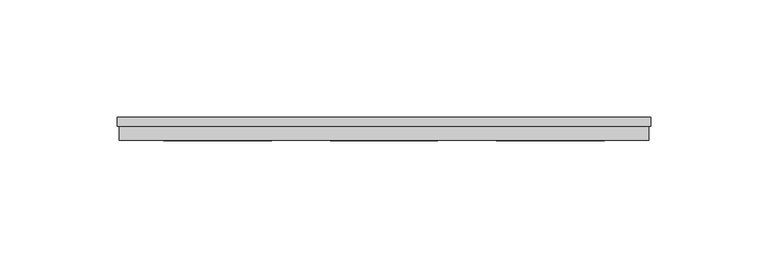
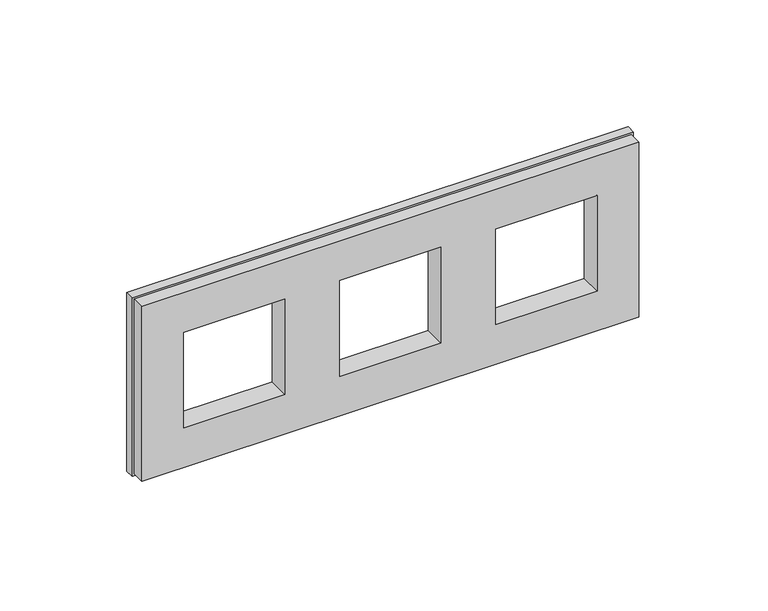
"""IFC4 building model written with IfcOpenShell, lengths in millimetres: proxy geometry, IEK_Skandy_Рамка : x3_SK-F33Bl."""

from ifc_helpers import new_model, si_unit, origin, place, context, project, spatial, faceted_brep, source, transform, mapped, element, save


def electrical_fixtures_3bda5ce9(model_context):
    return source(origin(), model_context, "Body", "Brep", [
        faceted_brep([(23.0, 10.0, 23.0), (23.0, 0.0, 23.0), (-23.0, 0.0, 23.0), (-23.0, 10.0, 23.0), (23.0, 10.0, -23.0), (23.0, 0.0, -23.0), (-23.0, 10.0, -23.0), (-23.0, 0.0, -23.0), (-184.0, 0.0, 42.0), (-184.0, 0.0, -42.0), (42.0, 0.0, -42.0), (42.0, 0.0, 42.0), (-165.0, 0.0, 23.0), (-119.0, 0.0, 23.0), (-119.0, 0.0, -23.0), (-165.0, 0.0, -23.0), (-94.0, 0.0, 23.0), (-48.0, 0.0, 23.0), (-48.0, 0.0, -23.0), (-94.0, 0.0, -23.0), (-184.0, 6.0, 42.0), (-184.0, 6.0, -42.0), (42.0, 6.0, -42.0), (42.0, 6.0, 42.0), (-119.0, 10.0, 23.0), (-165.0, 10.0, 23.0), (-119.0, 10.0, -23.0), (-165.0, 10.0, -23.0), (-48.0, 10.0, 23.0), (-94.0, 10.0, 23.0), (-48.0, 10.0, -23.0), (-94.0, 10.0, -23.0), (-185.0, 6.0, 43.0), (-185.0, 6.0, -43.0), (43.0, 6.0, -43.0), (43.0, 6.0, 43.0), (-185.0, 10.0, 43.0), (-185.0, 10.0, -43.0), (43.0, 10.0, -43.0), (43.0, 10.0, 43.0)], [[[0, 1, 2, 3]], [[1, 0, 4, 5]], [[5, 4, 6, 7]], [[3, 2, 7, 6]], [[8, 9, 10, 11], [2, 1, 5, 7], [12, 13, 14, 15], [16, 17, 18, 19]], [[9, 8, 20, 21]], [[10, 9, 21, 22]], [[11, 10, 22, 23]], [[8, 11, 23, 20]], [[24, 13, 12, 25]], [[13, 24, 26, 14]], [[14, 26, 27, 15]], [[25, 12, 15, 27]], [[28, 17, 16, 29]], [[17, 28, 30, 18]], [[18, 30, 31, 19]], [[29, 16, 19, 31]], [[32, 33, 34, 35], [21, 20, 23, 22]], [[33, 32, 36, 37]], [[34, 33, 37, 38]], [[35, 34, 38, 39]], [[32, 35, 39, 36]], [[36, 39, 38, 37], [0, 3, 6, 4], [24, 25, 27, 26], [28, 29, 31, 30]]]),
    ])


if __name__ == "__main__":
    model = new_model("IFC4")
    model_context = context("Model", 3, world=origin())
    ifc_project = project(units=[si_unit("LENGTHUNIT", "METRE", prefix="MILLI")], contexts=[model_context])
    site = spatial("IfcSite", under=ifc_project)
    building = spatial("IfcBuilding", under=site)
    placement = place(None, origin())
    electrical_fixtures_shape = electrical_fixtures_3bda5ce9(model_context)
    element("IfcBuildingElementProxy", 1, Name="IEK_Skandy_Рамка : x3_SK-F33Bl", ObjectType="IEK_Skandy_Рамка : x3_SK-F33Bl", at=placement, inside=building, context=model_context, shape_type="MappedRepresentation", body=[
        mapped(electrical_fixtures_shape, transform((0.0, 0.0, 0.0), x_axis=(1.0, 0.0, 0.0), y_axis=(0.0, 1.0, 0.0), z_axis=(0.0, 0.0, 1.0))),
    ])
    save(model, "model.ifc")
